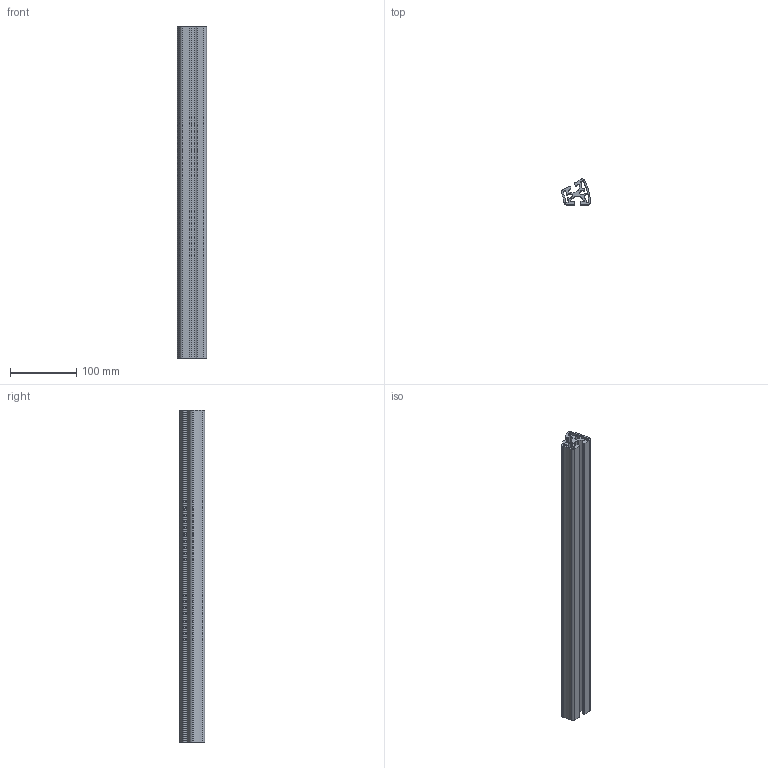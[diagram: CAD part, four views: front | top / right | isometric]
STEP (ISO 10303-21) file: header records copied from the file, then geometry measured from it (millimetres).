
FILE_DESCRIPTION (( 'STEP AP203' ), '1' );
FILE_NAME ('M ATP I8 40RR30.STEP', '2012-06-04T09:45:34', ( 'alle' ), ( 'Hewlett-Packard Company' ), 'SwSTEP 2.0', 'SolidWorks 2011', '' );
FILE_SCHEMA (( 'CONFIG_CONTROL_DESIGN' ));
Length unit declared in the file: millimetre
Products named in the file (1): M ATP I8 40RR30
Bounding box: 43.94 x 38.48 x 500 mm (x, y, z)
Volume: 311182.9 mm3; surface area: 185810.1 mm2
Topology: 1 solids, 1 shells, 113 faces, 333 edges, 222 vertices
Faces by surface type: cylinder 81, plane 32
Entity records: 3934 total; most frequent: DIRECTION 723, CARTESIAN_POINT 669, ORIENTED_EDGE 666, EDGE_CURVE 333, AXIS2_PLACEMENT_3D 276, VERTEX_POINT 222, VECTOR 171, LINE 171
